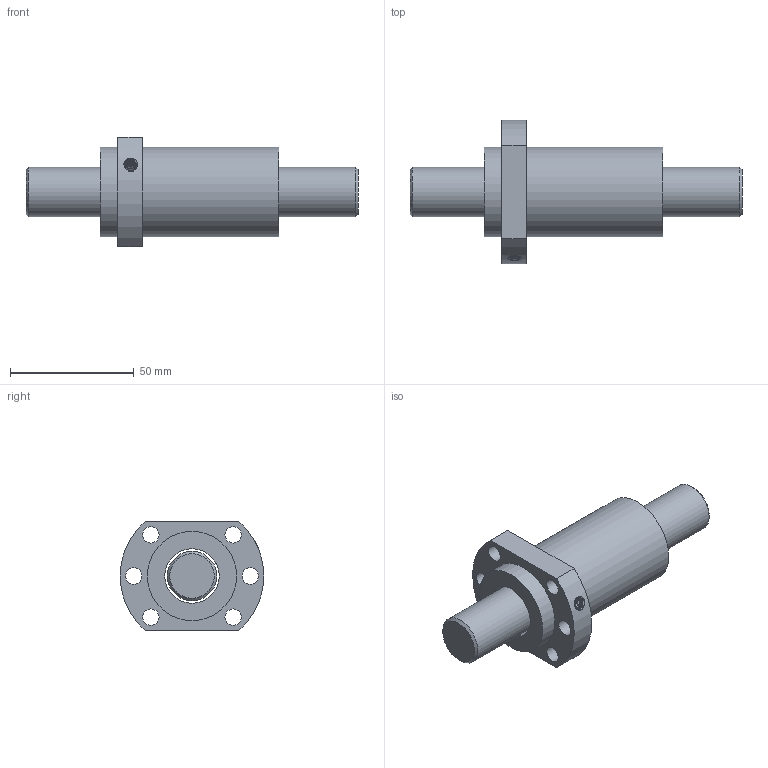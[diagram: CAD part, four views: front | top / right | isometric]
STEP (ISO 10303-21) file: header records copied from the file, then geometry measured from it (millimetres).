
FILE_DESCRIPTION (( 'STEP AP203' ), '1' );
FILE_NAME ('SFA2020-2.8.STEP', '2023-08-16T03:57:20', ( '' ), ( '' ), 'SwSTEP 2.0', 'SolidWorks 2022', '' );
FILE_SCHEMA (( 'CONFIG_CONTROL_DESIGN' ));
Length unit declared in the file: millimetre
Products named in the file (1): SFA2020-2.8
Bounding box: 134 x 58 x 44 mm (x, y, z)
Volume: 98215.5 mm3; surface area: 27650.9 mm2
Topology: 2 solids, 2 shells, 30 faces, 70 edges, 46 vertices
Faces by surface type: cylinder 16, plane 9, cone 3, bspline 2
Full cylindrical faces by diameter (mm): 4 x1, 4.917 x1, 6.6 x6, 20 x1, 22 x1, 36 x2
Entity records: 2601 total; most frequent: CARTESIAN_POINT 1901, DIRECTION 128, ORIENTED_EDGE 100, EDGE_LOOP 63, AXIS2_PLACEMENT_3D 60, EDGE_CURVE 50, FACE_OUTER_BOUND 42, VERTEX_POINT 41
